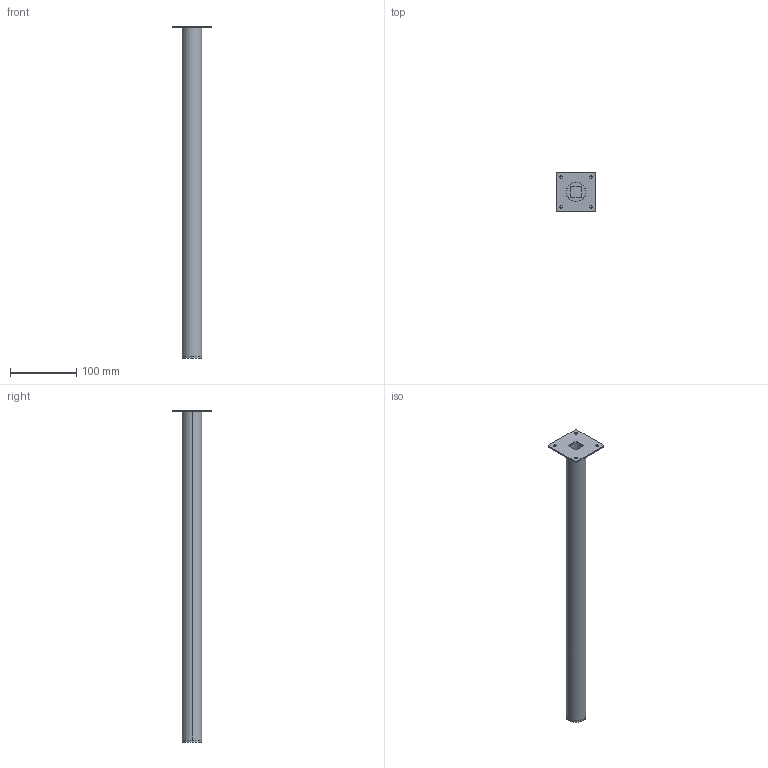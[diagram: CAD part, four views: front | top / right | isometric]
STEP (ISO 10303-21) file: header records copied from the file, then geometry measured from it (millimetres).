
FILE_DESCRIPTION( ( '' ), '1' );
FILE_NAME( 'D:/temp/hettich_stp/hettich/6.5_furniture_legs/table_legs/46279.stp', '2013-02-26T12:27:26', ( '' ), ( '' ), ' ', ' ', ' ' );
FILE_SCHEMA( ( 'automotive_design' ) );
Length unit declared in the file: millimetre
Products named in the file (1): 1
Bounding box: 60 x 60 x 500 mm (x, y, z)
Volume: 53780.7 mm3; surface area: 99170.8 mm2
Topology: 1 solids, 1 shells, 35 faces, 84 edges, 56 vertices
Faces by surface type: cylinder 20, plane 15
Entity records: 2058 total; most frequent: DIRECTION 196, STYLED_ITEM 176, PRESENTATION_STYLE_ASSIGNMENT 176, CARTESIAN_POINT 176, COLOUR_RGB 176, ORIENTED_EDGE 168, EDGE_CURVE 84, CURVE_STYLE 84
